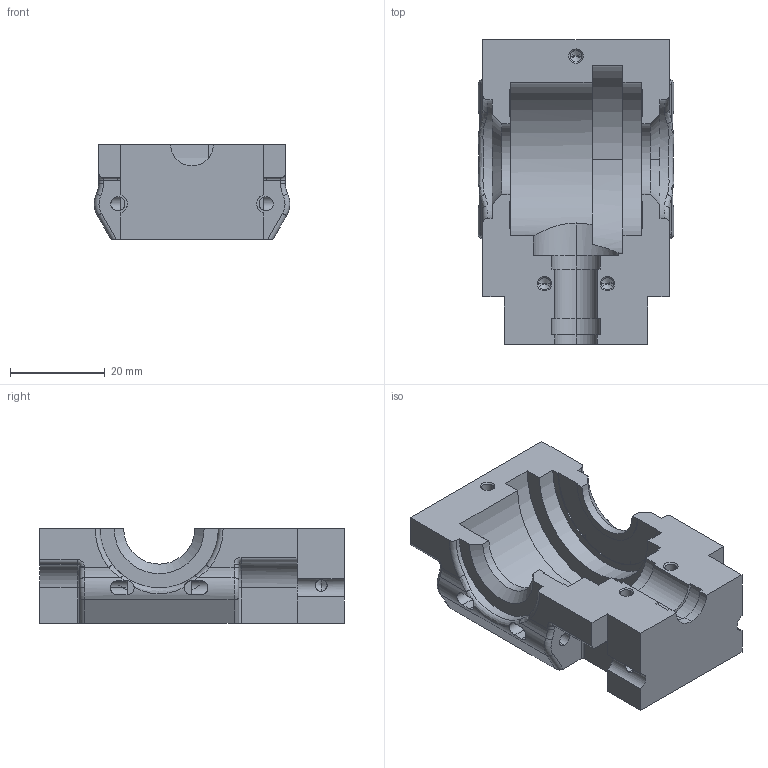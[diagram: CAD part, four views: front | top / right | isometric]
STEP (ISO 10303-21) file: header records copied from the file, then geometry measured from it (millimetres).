
FILE_DESCRIPTION (( 'STEP AP214' ), '1' );
FILE_NAME ('Çàäíèé ìîñò - Âåðíåå îñíîâàíèå.STEP', '2019-03-21T13:57:09', ( '' ), ( '' ), 'SwSTEP 2.0', 'SolidWorks 2018', '' );
FILE_SCHEMA (( 'AUTOMOTIVE_DESIGN' ));
Length unit declared in the file: millimetre
Products named in the file (1): Çàäíèé ìîñò - Âåðíåå îñíîâàíèå
Bounding box: 41.3 x 64.35 x 20 mm (x, y, z)
Volume: 26870.8 mm3; surface area: 12225.5 mm2
Topology: 1 solids, 1 shells, 232 faces, 615 edges, 376 vertices
Faces by surface type: cylinder 105, plane 66, cone 34, torus 21, bspline 6
Entity records: 7790 total; most frequent: CARTESIAN_POINT 1999, DIRECTION 1221, ORIENTED_EDGE 1198, EDGE_CURVE 599, AXIS2_PLACEMENT_3D 460, VERTEX_POINT 376, LINE 301, VECTOR 301
